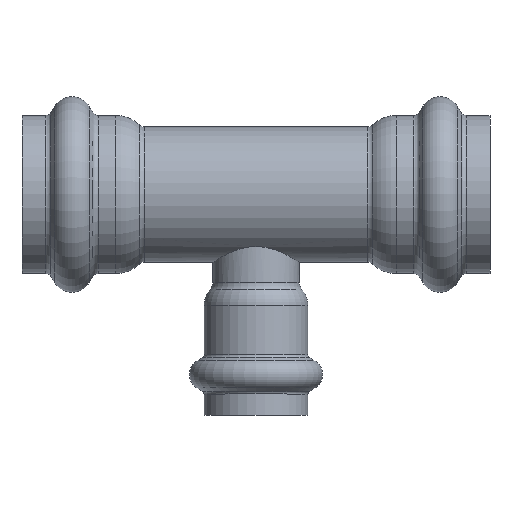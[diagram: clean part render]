
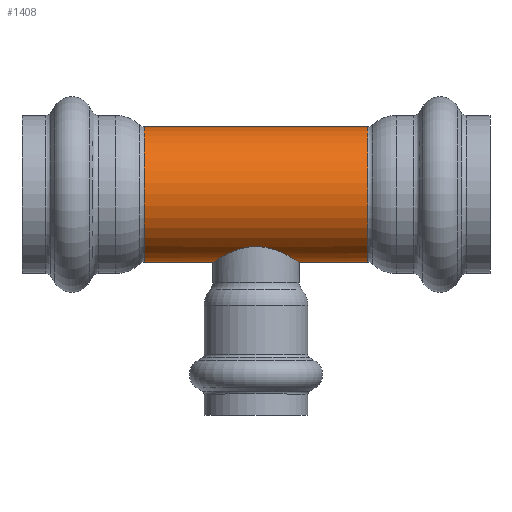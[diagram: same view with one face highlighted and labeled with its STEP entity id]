
A CAD part, top view. The second image highlights one B-rep face of the part: STEP entity #1408.
In plain terms, the highlighted cylindrical face has radius 16.701 mm (diameter 33.401 mm), a full revolution.
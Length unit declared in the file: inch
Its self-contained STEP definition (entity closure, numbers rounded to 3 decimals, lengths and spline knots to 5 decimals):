
#134=FACE_OUTER_BOUND('',#197,.T.);
#197=EDGE_LOOP('',(#1132,#1133,#1134,#1135,#1136,#1137,#1138,#1139,#1140,
#1141,#1142,#1143,#1144,#1145));
#334=CIRCLE('',#1605,0.6575);
#335=CIRCLE('',#1606,0.6575);
#336=CIRCLE('',#1607,0.6575);
#337=CIRCLE('',#1609,0.6575);
#338=CIRCLE('',#1610,0.6575);
#339=CIRCLE('',#1611,0.6575);
#420=LINE('',#2630,#450);
#421=LINE('',#2631,#451);
#450=VECTOR('',#2052,0.6575);
#451=VECTOR('',#2053,0.6575);
#460=B_SPLINE_CURVE_WITH_KNOTS('',3,(#2252,#2253,#2254,#2255,#2256,#2257,
#2258,#2259,#2260,#2261,#2262,#2263),.UNSPECIFIED.,.F.,.F.,(4,2,2,2,2,4),
(0.,0.20931,0.41862,0.83724,1.25217,
1.6671),.UNSPECIFIED.);
#461=B_SPLINE_CURVE_WITH_KNOTS('',3,(#2265,#2266,#2267,#2268,#2269,#2270,
#2271,#2272,#2273,#2274,#2275,#2276),.UNSPECIFIED.,.F.,.F.,(4,2,2,2,2,4),
(5.0013,5.41623,5.83115,6.24978,6.45909,
6.6684),.UNSPECIFIED.);
#462=B_SPLINE_CURVE_WITH_KNOTS('',3,(#2278,#2279,#2280,#2281,#2282,#2283,
#2284,#2285,#2286,#2287,#2288,#2289),.UNSPECIFIED.,.F.,.F.,(4,2,2,2,2,4),
(3.3342,3.54351,3.75282,4.17144,4.58637,
5.0013),.UNSPECIFIED.);
#463=B_SPLINE_CURVE_WITH_KNOTS('',3,(#2295,#2296,#2297,#2298,#2299,#2300,
#2301,#2302,#2303,#2304,#2305,#2306),.UNSPECIFIED.,.F.,.F.,(4,2,2,2,2,4),
(1.6671,2.08203,2.49695,2.91558,3.12489,
3.3342),.UNSPECIFIED.);
#468=VERTEX_POINT('',#2250);
#469=VERTEX_POINT('',#2251);
#470=VERTEX_POINT('',#2264);
#471=VERTEX_POINT('',#2277);
#572=VERTEX_POINT('',#2617);
#573=VERTEX_POINT('',#2619);
#574=VERTEX_POINT('',#2621);
#575=VERTEX_POINT('',#2625);
#576=VERTEX_POINT('',#2626);
#577=VERTEX_POINT('',#2628);
#628=EDGE_CURVE('',#468,#469,#460,.T.);
#629=EDGE_CURVE('',#470,#468,#461,.T.);
#630=EDGE_CURVE('',#471,#470,#462,.T.);
#634=EDGE_CURVE('',#469,#471,#463,.T.);
#772=EDGE_CURVE('',#573,#572,#334,.T.);
#773=EDGE_CURVE('',#574,#573,#335,.T.);
#774=EDGE_CURVE('',#572,#574,#336,.T.);
#775=EDGE_CURVE('',#575,#576,#337,.T.);
#776=EDGE_CURVE('',#577,#575,#338,.T.);
#777=EDGE_CURVE('',#577,#469,#420,.T.);
#778=EDGE_CURVE('',#470,#574,#421,.T.);
#779=EDGE_CURVE('',#576,#577,#339,.T.);
#1132=ORIENTED_EDGE('',*,*,#775,.F.);
#1133=ORIENTED_EDGE('',*,*,#776,.F.);
#1134=ORIENTED_EDGE('',*,*,#777,.T.);
#1135=ORIENTED_EDGE('',*,*,#634,.T.);
#1136=ORIENTED_EDGE('',*,*,#630,.T.);
#1137=ORIENTED_EDGE('',*,*,#778,.T.);
#1138=ORIENTED_EDGE('',*,*,#773,.T.);
#1139=ORIENTED_EDGE('',*,*,#772,.T.);
#1140=ORIENTED_EDGE('',*,*,#774,.T.);
#1141=ORIENTED_EDGE('',*,*,#778,.F.);
#1142=ORIENTED_EDGE('',*,*,#629,.T.);
#1143=ORIENTED_EDGE('',*,*,#628,.T.);
#1144=ORIENTED_EDGE('',*,*,#777,.F.);
#1145=ORIENTED_EDGE('',*,*,#779,.F.);
#1299=CYLINDRICAL_SURFACE('',#1608,0.6575);
#1408=ADVANCED_FACE('',(#134),#1299,.T.);
#1605=AXIS2_PLACEMENT_3D('',#2620,#2040,#2041);
#1606=AXIS2_PLACEMENT_3D('',#2622,#2042,#2043);
#1607=AXIS2_PLACEMENT_3D('',#2623,#2044,#2045);
#1608=AXIS2_PLACEMENT_3D('',#2624,#2046,#2047);
#1609=AXIS2_PLACEMENT_3D('',#2627,#2048,#2049);
#1610=AXIS2_PLACEMENT_3D('',#2629,#2050,#2051);
#1611=AXIS2_PLACEMENT_3D('',#2632,#2054,#2055);
#2040=DIRECTION('center_axis',(1.,0.,0.));
#2041=DIRECTION('ref_axis',(0.,1.,0.));
#2042=DIRECTION('center_axis',(1.,0.,0.));
#2043=DIRECTION('ref_axis',(0.,1.,0.));
#2044=DIRECTION('center_axis',(1.,0.,0.));
#2045=DIRECTION('ref_axis',(0.,1.,0.));
#2046=DIRECTION('center_axis',(1.,0.,0.));
#2047=DIRECTION('ref_axis',(0.,1.,0.));
#2048=DIRECTION('center_axis',(1.,0.,0.));
#2049=DIRECTION('ref_axis',(0.,1.,0.));
#2050=DIRECTION('center_axis',(1.,0.,0.));
#2051=DIRECTION('ref_axis',(0.,1.,0.));
#2052=DIRECTION('',(-1.,0.,0.));
#2053=DIRECTION('',(-1.,0.,0.));
#2054=DIRECTION('center_axis',(1.,0.,0.));
#2055=DIRECTION('ref_axis',(0.,1.,0.));
#2250=CARTESIAN_POINT('',(0.,-0.50587,0.42));
#2251=CARTESIAN_POINT('',(0.42,-0.6575,0.));
#2252=CARTESIAN_POINT('Ctrl Pts',(0.,-0.50587,
0.42));
#2253=CARTESIAN_POINT('Ctrl Pts',(0.02747,-0.50587,
0.42));
#2254=CARTESIAN_POINT('Ctrl Pts',(0.05544,-0.50818,
0.41727));
#2255=CARTESIAN_POINT('Ctrl Pts',(0.11038,-0.51706,
0.4062));
#2256=CARTESIAN_POINT('Ctrl Pts',(0.13736,-0.52362,
0.39788));
#2257=CARTESIAN_POINT('Ctrl Pts',(0.21433,-0.54723,
0.36546));
#2258=CARTESIAN_POINT('Ctrl Pts',(0.26041,-0.56809,
0.33356));
#2259=CARTESIAN_POINT('Ctrl Pts',(0.33324,-0.60496,
0.26073));
#2260=CARTESIAN_POINT('Ctrl Pts',(0.36536,-0.62378,
0.21457));
#2261=CARTESIAN_POINT('Ctrl Pts',(0.40878,-0.65016,0.11147));
#2262=CARTESIAN_POINT('Ctrl Pts',(0.42,-0.6575,0.05445));
#2263=CARTESIAN_POINT('Ctrl Pts',(0.42,-0.6575,0.));
#2264=CARTESIAN_POINT('',(-0.42,-0.6575,0.));
#2265=CARTESIAN_POINT('Ctrl Pts',(-0.42,-0.6575,0.));
#2266=CARTESIAN_POINT('Ctrl Pts',(-0.42,-0.6575,0.05445));
#2267=CARTESIAN_POINT('Ctrl Pts',(-0.40878,-0.65016,
0.11147));
#2268=CARTESIAN_POINT('Ctrl Pts',(-0.36536,-0.62378,
0.21457));
#2269=CARTESIAN_POINT('Ctrl Pts',(-0.33324,-0.60496,
0.26073));
#2270=CARTESIAN_POINT('Ctrl Pts',(-0.26041,-0.56809,
0.33356));
#2271=CARTESIAN_POINT('Ctrl Pts',(-0.21433,-0.54723,
0.36546));
#2272=CARTESIAN_POINT('Ctrl Pts',(-0.13736,-0.52362,
0.39788));
#2273=CARTESIAN_POINT('Ctrl Pts',(-0.11038,-0.51706,
0.4062));
#2274=CARTESIAN_POINT('Ctrl Pts',(-0.05544,-0.50818,
0.41727));
#2275=CARTESIAN_POINT('Ctrl Pts',(-0.02747,-0.50587,
0.42));
#2276=CARTESIAN_POINT('Ctrl Pts',(0.,-0.50587,
0.42));
#2277=CARTESIAN_POINT('',(0.,-0.50587,-0.42));
#2278=CARTESIAN_POINT('Ctrl Pts',(0.,-0.50587,
-0.42));
#2279=CARTESIAN_POINT('Ctrl Pts',(-0.02747,-0.50587,
-0.42));
#2280=CARTESIAN_POINT('Ctrl Pts',(-0.05544,-0.50818,
-0.41727));
#2281=CARTESIAN_POINT('Ctrl Pts',(-0.11038,-0.51706,
-0.4062));
#2282=CARTESIAN_POINT('Ctrl Pts',(-0.13736,-0.52362,
-0.39788));
#2283=CARTESIAN_POINT('Ctrl Pts',(-0.21433,-0.54723,
-0.36546));
#2284=CARTESIAN_POINT('Ctrl Pts',(-0.26041,-0.56809,
-0.33356));
#2285=CARTESIAN_POINT('Ctrl Pts',(-0.33324,-0.60496,
-0.26073));
#2286=CARTESIAN_POINT('Ctrl Pts',(-0.36536,-0.62378,
-0.21457));
#2287=CARTESIAN_POINT('Ctrl Pts',(-0.40878,-0.65016,
-0.11147));
#2288=CARTESIAN_POINT('Ctrl Pts',(-0.42,-0.6575,-0.05445));
#2289=CARTESIAN_POINT('Ctrl Pts',(-0.42,-0.6575,0.));
#2295=CARTESIAN_POINT('Ctrl Pts',(0.42,-0.6575,0.));
#2296=CARTESIAN_POINT('Ctrl Pts',(0.42,-0.6575,-0.05445));
#2297=CARTESIAN_POINT('Ctrl Pts',(0.40878,-0.65016,-0.11147));
#2298=CARTESIAN_POINT('Ctrl Pts',(0.36536,-0.62378,
-0.21457));
#2299=CARTESIAN_POINT('Ctrl Pts',(0.33324,-0.60496,
-0.26073));
#2300=CARTESIAN_POINT('Ctrl Pts',(0.26041,-0.56809,
-0.33356));
#2301=CARTESIAN_POINT('Ctrl Pts',(0.21433,-0.54723,
-0.36546));
#2302=CARTESIAN_POINT('Ctrl Pts',(0.13736,-0.52362,
-0.39788));
#2303=CARTESIAN_POINT('Ctrl Pts',(0.11038,-0.51706,
-0.4062));
#2304=CARTESIAN_POINT('Ctrl Pts',(0.05544,-0.50818,
-0.41727));
#2305=CARTESIAN_POINT('Ctrl Pts',(0.02747,-0.50587,
-0.42));
#2306=CARTESIAN_POINT('Ctrl Pts',(0.,-0.50587,
-0.42));
#2617=CARTESIAN_POINT('',(-1.08535,0.,0.6575));
#2619=CARTESIAN_POINT('',(-1.08535,0.6575,0.));
#2620=CARTESIAN_POINT('Origin',(-1.08535,0.,0.));
#2621=CARTESIAN_POINT('',(-1.08535,-0.6575,0.));
#2622=CARTESIAN_POINT('Origin',(-1.08535,0.,0.));
#2623=CARTESIAN_POINT('Origin',(-1.08535,0.,0.));
#2624=CARTESIAN_POINT('Origin',(0.54268,0.,0.));
#2625=CARTESIAN_POINT('',(1.08535,0.6575,0.));
#2626=CARTESIAN_POINT('',(1.08535,0.,0.6575));
#2627=CARTESIAN_POINT('Origin',(1.08535,0.,0.));
#2628=CARTESIAN_POINT('',(1.08535,-0.6575,0.));
#2629=CARTESIAN_POINT('Origin',(1.08535,0.,0.));
#2630=CARTESIAN_POINT('',(0.54268,-0.6575,0.));
#2631=CARTESIAN_POINT('',(0.54268,-0.6575,0.));
#2632=CARTESIAN_POINT('Origin',(1.08535,0.,0.));
